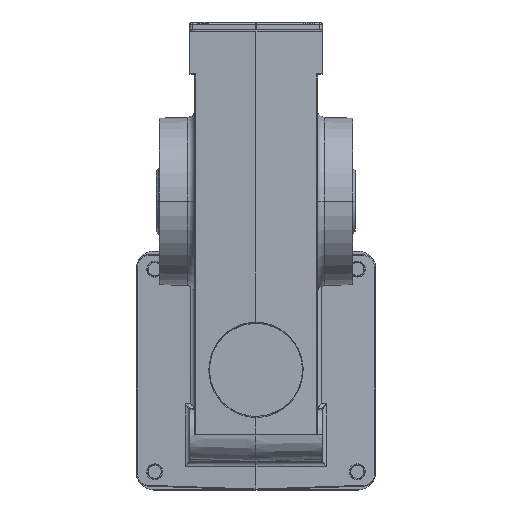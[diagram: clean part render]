
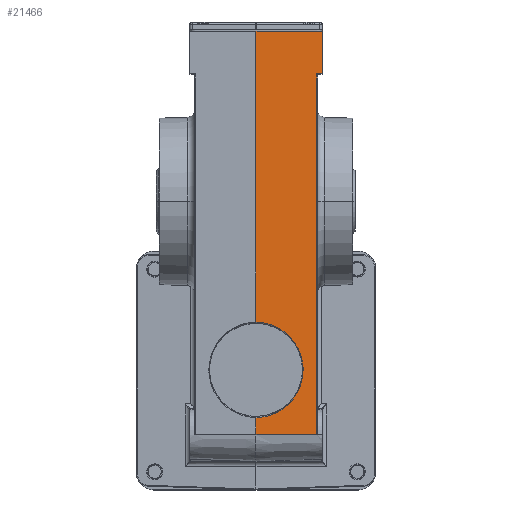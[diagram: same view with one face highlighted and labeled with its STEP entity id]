
A CAD part, top view. The second image highlights one B-rep face of the part: STEP entity #21466.
In plain terms, the highlighted planar face has unit normal (0.035, 0, 0.999).
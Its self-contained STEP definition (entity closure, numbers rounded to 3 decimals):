
#433 = CARTESIAN_POINT ( 'NONE',  ( 7.486, 122.839, 196.368 ) ) ;
#4441 = PLANE ( 'NONE',  #25533 ) ;
#4815 = ORIENTED_EDGE ( 'NONE', *, *, #14063, .F. ) ;
#6007 = VERTEX_POINT ( 'NONE', #67041 ) ;
#6022 = CARTESIAN_POINT ( 'NONE',  ( 0.337, 11.073, 196.618 ) ) ;
#7301 = CARTESIAN_POINT ( 'NONE',  ( -17.417, 29.052, 197.238 ) ) ;
#7817 = VERTEX_POINT ( 'NONE', #15595 ) ;
#7982 = LINE ( 'NONE', #65965, #48866 ) ;
#9008 = LINE ( 'NONE', #34685, #13754 ) ;
#9679 = LINE ( 'NONE', #35353, #12267 ) ;
#10146 =( BOUNDED_CURVE ( )  B_SPLINE_CURVE ( 3, ( #7301, #65270, #20720, #46336 ),
 .UNSPECIFIED., .F., .F. ) 
 B_SPLINE_CURVE_WITH_KNOTS ( ( 4, 4 ),
 ( 1.584, 3.142 ),
 .UNSPECIFIED. ) 
 CURVE ( )  GEOMETRIC_REPRESENTATION_ITEM ( )  RATIONAL_B_SPLINE_CURVE ( ( 1., 0.808, 0.808, 1. ) ) 
 REPRESENTATION_ITEM ( '' )  );
#10183 = EDGE_CURVE ( 'NONE', #46047, #29893, #10146, .T. ) ;
#10722 = LINE ( 'NONE', #75035, #67595 ) ;
#11296 = CARTESIAN_POINT ( 'NONE',  ( 5.486, -13.227, 196.438 ) ) ;
#12267 = VECTOR ( 'NONE', #21013, 1000. ) ;
#13754 = VECTOR ( 'NONE', #28317, 1000. ) ;
#14063 = EDGE_CURVE ( 'NONE', #46047, #6007, #9679, .T. ) ;
#15595 = CARTESIAN_POINT ( 'NONE',  ( -17.417, -13.227, 197.238 ) ) ;
#17388 = EDGE_CURVE ( 'NONE', #35546, #66449, #7982, .T. ) ;
#17413 = VERTEX_POINT ( 'NONE', #26454 ) ;
#18151 = EDGE_CURVE ( 'NONE', #29893, #18977, #77891, .T. ) ;
#18644 = EDGE_CURVE ( 'NONE', #7817, #18977, #28754, .T. ) ;
#18977 = VERTEX_POINT ( 'NONE', #50471 ) ;
#20720 = CARTESIAN_POINT ( 'NONE',  ( 0.337, 21.5, 196.618 ) ) ;
#21013 = DIRECTION ( 'NONE',  ( 0., 1., 0. ) ) ;
#21466 = ADVANCED_FACE ( 'NONE', ( #42659 ), #4441, .T. ) ;
#23828 = CARTESIAN_POINT ( 'NONE',  ( -19.065, 121.912, 197.295 ) ) ;
#25533 = AXIS2_PLACEMENT_3D ( 'NONE', #30083, #62383, #75066 ) ;
#26342 = VECTOR ( 'NONE', #75568, 1000. ) ;
#26454 = CARTESIAN_POINT ( 'NONE',  ( 5.486, 122.576, 196.438 ) ) ;
#27091 = ORIENTED_EDGE ( 'NONE', *, *, #17388, .T. ) ;
#27960 = ORIENTED_EDGE ( 'NONE', *, *, #40469, .T. ) ;
#27984 = EDGE_CURVE ( 'NONE', #66449, #6007, #37059, .T. ) ;
#28317 = DIRECTION ( 'NONE',  ( 0., 1., 0. ) ) ;
#28754 = LINE ( 'NONE', #80496, #81294 ) ;
#29893 = VERTEX_POINT ( 'NONE', #66541 ) ;
#30083 = CARTESIAN_POINT ( 'NONE',  ( -17.417, 74.673, 197.238 ) ) ;
#31435 = VERTEX_POINT ( 'NONE', #55204 ) ;
#31678 = CARTESIAN_POINT ( 'NONE',  ( -17.417, -6.907, 197.238 ) ) ;
#32912 = CARTESIAN_POINT ( 'NONE',  ( 0.337, 0.646, 196.618 ) ) ;
#34685 = CARTESIAN_POINT ( 'NONE',  ( 5.486, 122.673, 196.438 ) ) ;
#35353 = CARTESIAN_POINT ( 'NONE',  ( -17.417, 74.673, 197.238 ) ) ;
#35546 = VERTEX_POINT ( 'NONE', #433 ) ;
#36470 = ORIENTED_EDGE ( 'NONE', *, *, #18151, .T. ) ;
#36646 = CARTESIAN_POINT ( 'NONE',  ( -17.417, 138.673, 197.238 ) ) ;
#36917 = ORIENTED_EDGE ( 'NONE', *, *, #18644, .F. ) ;
#37059 = LINE ( 'NONE', #36646, #81913 ) ;
#38959 = ORIENTED_EDGE ( 'NONE', *, *, #27984, .T. ) ;
#40469 = EDGE_CURVE ( 'NONE', #31435, #35546, #75973, .T. ) ;
#42659 = FACE_OUTER_BOUND ( 'NONE', #60663, .T. ) ;
#44139 = ORIENTED_EDGE ( 'NONE', *, *, #75891, .F. ) ;
#44674 = CARTESIAN_POINT ( 'NONE',  ( -6.99, -6.774, 196.873 ) ) ;
#46047 = VERTEX_POINT ( 'NONE', #61174 ) ;
#46336 = CARTESIAN_POINT ( 'NONE',  ( 0.337, 11.073, 196.618 ) ) ;
#46896 = ORIENTED_EDGE ( 'NONE', *, *, #80711, .T. ) ;
#48866 = VECTOR ( 'NONE', #58395, 1000. ) ;
#49103 = ORIENTED_EDGE ( 'NONE', *, *, #80125, .T. ) ;
#50471 = CARTESIAN_POINT ( 'NONE',  ( -17.417, -6.907, 197.238 ) ) ;
#55204 = CARTESIAN_POINT ( 'NONE',  ( 5.679, 122.776, 196.431 ) ) ;
#58395 = DIRECTION ( 'NONE',  ( 0., 1., 0. ) ) ;
#59685 = CARTESIAN_POINT ( 'NONE',  ( 7.486, 138.673, 196.368 ) ) ;
#60663 = EDGE_LOOP ( 'NONE', ( #4815, #81871, #36470, #36917, #46896, #49103, #44139, #27960, #27091, #38959 ) ) ;
#61174 = CARTESIAN_POINT ( 'NONE',  ( -17.417, 29.052, 197.238 ) ) ;
#62354 = DIRECTION ( 'NONE',  ( 0.999, 0., -0.035 ) ) ;
#62383 = DIRECTION ( 'NONE',  ( 0.035, 0., 0.999 ) ) ;
#65270 = CARTESIAN_POINT ( 'NONE',  ( -6.99, 28.92, 196.873 ) ) ;
#65965 = CARTESIAN_POINT ( 'NONE',  ( 7.486, 138.673, 196.368 ) ) ;
#66449 = VERTEX_POINT ( 'NONE', #59685 ) ;
#66541 = CARTESIAN_POINT ( 'NONE',  ( 0.337, 11.073, 196.618 ) ) ;
#67041 = CARTESIAN_POINT ( 'NONE',  ( -17.417, 138.673, 197.238 ) ) ;
#67449 = CARTESIAN_POINT ( 'NONE',  ( 5.679, 122.776, 196.431 ) ) ;
#67452 = DIRECTION ( 'NONE',  ( 0., 1., 0. ) ) ;
#67595 = VECTOR ( 'NONE', #62354, 1000. ) ;
#69022 = DIRECTION ( 'NONE',  ( -0.999, 0., 0.035 ) ) ;
#70809 = VERTEX_POINT ( 'NONE', #11296 ) ;
#72407 =( BOUNDED_CURVE ( )  B_SPLINE_CURVE ( 3, ( #67449, #74606, #82450, #76957 ),
 .UNSPECIFIED., .F., .F. ) 
 B_SPLINE_CURVE_WITH_KNOTS ( ( 4, 4 ),
 ( 1.606, 3.142 ),
 .UNSPECIFIED. ) 
 CURVE ( )  GEOMETRIC_REPRESENTATION_ITEM ( )  RATIONAL_B_SPLINE_CURVE ( ( 1., 0.813, 0.813, 1. ) ) 
 REPRESENTATION_ITEM ( '' )  );
#74606 = CARTESIAN_POINT ( 'NONE',  ( 5.566, 122.772, 196.435 ) ) ;
#75035 = CARTESIAN_POINT ( 'NONE',  ( -17.417, -13.227, 197.238 ) ) ;
#75066 = DIRECTION ( 'NONE',  ( 0.999, 0., -0.035 ) ) ;
#75568 = DIRECTION ( 'NONE',  ( 0.999, 0.035, -0.035 ) ) ;
#75891 = EDGE_CURVE ( 'NONE', #31435, #17413, #72407, .T. ) ;
#75973 = LINE ( 'NONE', #23828, #26342 ) ;
#76957 = CARTESIAN_POINT ( 'NONE',  ( 5.486, 122.576, 196.438 ) ) ;
#77891 =( BOUNDED_CURVE ( )  B_SPLINE_CURVE ( 3, ( #6022, #32912, #44674, #31678 ),
 .UNSPECIFIED., .F., .F. ) 
 B_SPLINE_CURVE_WITH_KNOTS ( ( 4, 4 ),
 ( 3.142, 4.7 ),
 .UNSPECIFIED. ) 
 CURVE ( )  GEOMETRIC_REPRESENTATION_ITEM ( )  RATIONAL_B_SPLINE_CURVE ( ( 1., 0.808, 0.808, 1. ) ) 
 REPRESENTATION_ITEM ( '' )  );
#80125 = EDGE_CURVE ( 'NONE', #70809, #17413, #9008, .T. ) ;
#80496 = CARTESIAN_POINT ( 'NONE',  ( -17.417, 74.673, 197.238 ) ) ;
#80711 = EDGE_CURVE ( 'NONE', #7817, #70809, #10722, .T. ) ;
#81294 = VECTOR ( 'NONE', #67452, 1000. ) ;
#81871 = ORIENTED_EDGE ( 'NONE', *, *, #10183, .T. ) ;
#81913 = VECTOR ( 'NONE', #69022, 1000. ) ;
#82450 = CARTESIAN_POINT ( 'NONE',  ( 5.486, 122.69, 196.438 ) ) ;
